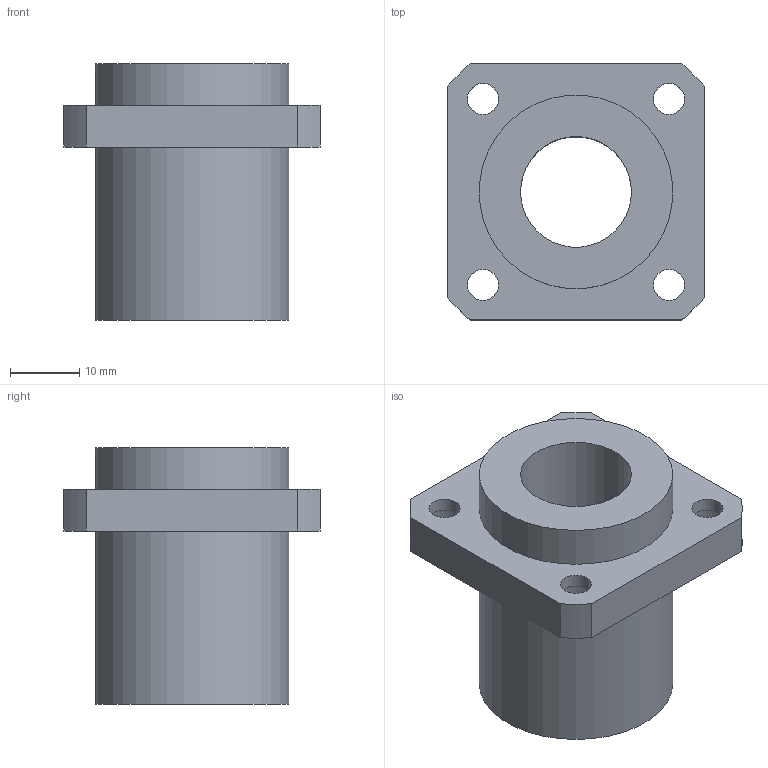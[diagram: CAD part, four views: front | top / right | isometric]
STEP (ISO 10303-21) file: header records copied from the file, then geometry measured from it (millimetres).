
FILE_DESCRIPTION(/* description */ (''),/* implementation_level */ '2;1');
FILE_NAME(/* name */ 'LMKP16UU',/* time_stamp */ '2019-07-10T08:51:35+02:00',/* author */ ('VĂ©gh MĂˇtĂ©'),/* organization */ ('Bearing Kft'),/* preprocessor_version */ 'ST-DEVELOPER v16.7',/* originating_system */ 'DEX',/* authorisation */ $);
FILE_SCHEMA (('AUTOMOTIVE_DESIGN {1 0 10303 214 3 1 1}'));
Length unit declared in the file: millimetre
Products named in the file (1): LMKP16UU
Bounding box: 37 x 37 x 37 mm (x, y, z)
Volume: 18900.6 mm3; surface area: 8106.5 mm2
Topology: 1 solids, 1 shells, 339 faces, 853 edges, 570 vertices
Faces by surface type: plane 258, bspline 63, cylinder 18
Full cylindrical faces by diameter (mm): 4.5 x4, 7.5 x4, 16 x1, 28 x2
Entity records: 12690 total; most frequent: CARTESIAN_POINT 4949, ORIENTED_EDGE 1672, DIRECTION 1300, EDGE_CURVE 836, LINE 674, VECTOR 674, VERTEX_POINT 566, EDGE_LOOP 416
